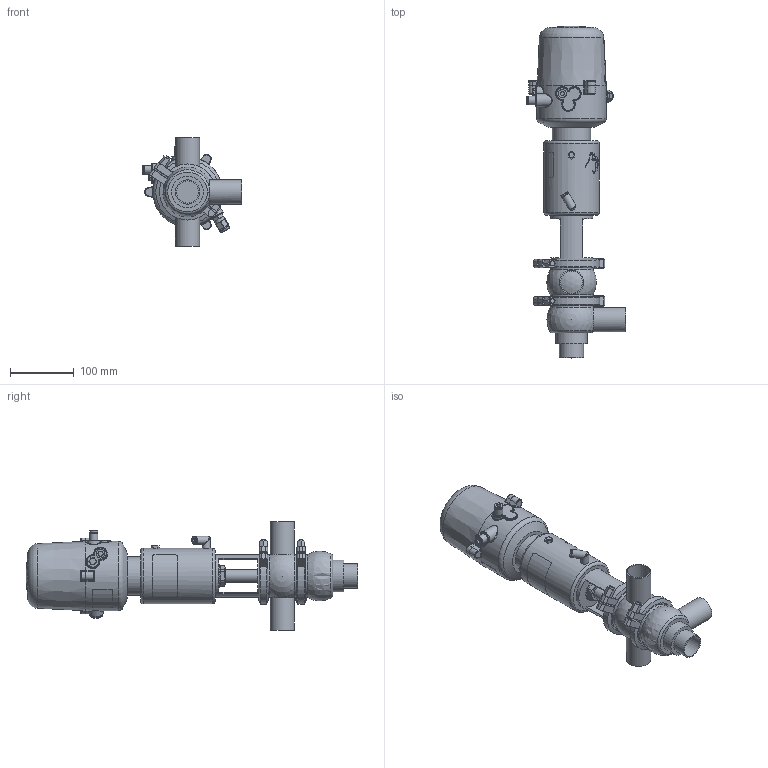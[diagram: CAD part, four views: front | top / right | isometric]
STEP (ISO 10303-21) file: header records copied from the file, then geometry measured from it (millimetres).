
FILE_DESCRIPTION (( 'STEP AP214' ), '1' );
FILE_NAME ('INNOVA K E W OD 1½ T1 AS NC & C-TOP S_10.240.16.0076.STEP', '2024-08-06T09:18:21', ( '' ), ( '' ), 'SwSTEP 2.0', 'SolidWorks 2023', '' );
FILE_SCHEMA (( 'AUTOMOTIVE_DESIGN' ));
Length unit declared in the file: millimetre
Products named in the file (8): 10.240.15.0001_DN 040; 10.240.15.0007_OD 1½"; INNOVA K E W OD 1½ T1 AS NC & C-TOP S_10.240.16.0076; 10.240.15.0010_DN 040; 10.426.15.0001_C-TOP S - 1 EV; 10.240.15.0014_T1 AS P0; 10.240.15.0017_Estàndard; 10.240.15.0002_OD 1½"
Assembly tree (8 placements, depth 2):
  INNOVA K E W OD 1½ T1 AS NC & C-TOP S_10.240.16.0076
    10.240.15.0007_OD 1½"
    10.240.15.0002_OD 1½"
    10.240.15.0010_DN 040
    10.240.15.0014_T1 AS P0
    10.240.15.0017_Estàndard
    10.426.15.0001_C-TOP S - 1 EV
    10.240.15.0001_DN 040  x2
Bounding box: 156 x 521.5 x 170 mm (x, y, z)
Volume: 2832911.4 mm3; surface area: 288197.1 mm2
Topology: 8 solids, 8 shells, 1177 faces, 2841 edges, 1892 vertices
Faces by surface type: plane 411, cylinder 358, cone 201, bspline 160, torus 38, sphere 9
Full cylindrical faces by diameter (mm): 0.371 x17, 0.512 x16, 0.658 x16, 0.795 x16, 0.94 x15, 1.098 x15, 1.241 x13, 1.382 x13, 1.523 x11, 1.669 x10, 2.201 x1, 4 x2, 5.5 x2, 6 x2, 6.15 x1, 8 x6, 8.5 x1, 10 x1, 10.5 x1, 11 x2, 12.5 x3, 13 x2, 13.5 x2, 16 x1, 17 x3, 20 x3, 20.5 x1, 22 x2, 31 x1, 34.5 x3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
Entity records: 57059 total; most frequent: CARTESIAN_POINT 26775, ORIENTED_EDGE 4522, DIRECTION 3667, EDGE_CURVE 2261, VERTEX_POINT 1610, EDGE_LOOP 1579, AXIS2_PLACEMENT_3D 1505, FACE_OUTER_BOUND 1338
